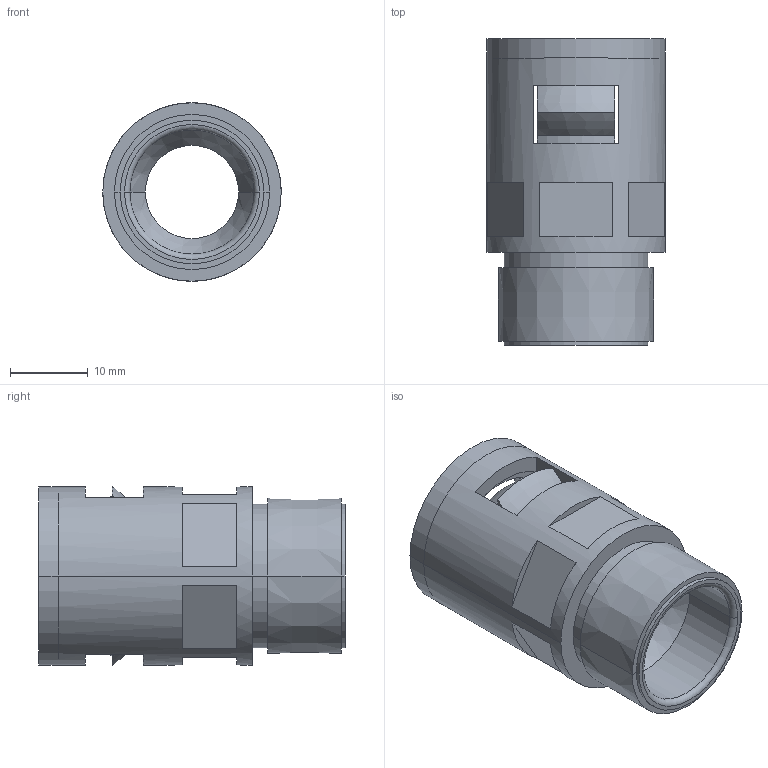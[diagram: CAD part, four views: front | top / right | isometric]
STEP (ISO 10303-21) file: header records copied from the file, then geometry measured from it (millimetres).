
FILE_DESCRIPTION (( 'STEP AP203' ), '1' );
FILE_NAME ('WQG-M20 AD15.8.STEP', '2013-12-10T05:20:27', ( 'User' ), ( 'Microsoft' ), 'SwSTEP 2.0', 'SolidWorks 2010', '' );
FILE_SCHEMA (( 'CONFIG_CONTROL_DESIGN' ));
Length unit declared in the file: millimetre
Products named in the file (4): WQG-M20 AD15.8-01; WQG-M20 AD15.8; NSK-AD15.8; GFD-AD15.8
Assembly tree (3 placements, depth 2):
  WQG-M20 AD15.8
    WQG-M20 AD15.8-01
    GFD-AD15.8
    NSK-AD15.8
Bounding box: 23 x 39.5 x 23 mm (x, y, z)
Volume: 6686.8 mm3; surface area: 8625.8 mm2
Topology: 3 solids, 3 shells, 158 faces, 364 edges, 222 vertices
Faces by surface type: plane 64, cone 52, cylinder 22, torus 20
Entity records: 4976 total; most frequent: DIRECTION 854, CARTESIAN_POINT 846, ORIENTED_EDGE 728, EDGE_CURVE 364, AXIS2_PLACEMENT_3D 342, VERTEX_POINT 222, EDGE_LOOP 182, CIRCLE 178
